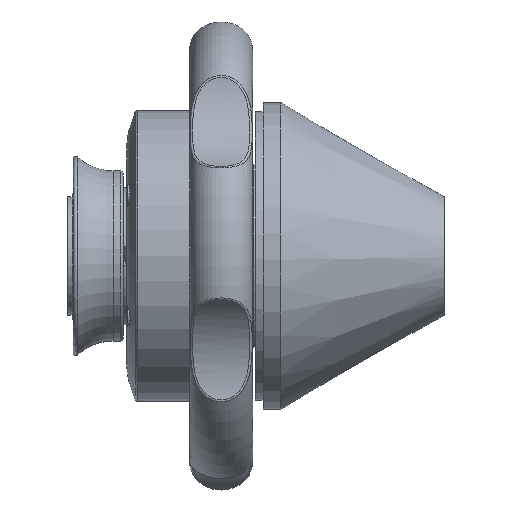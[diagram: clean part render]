
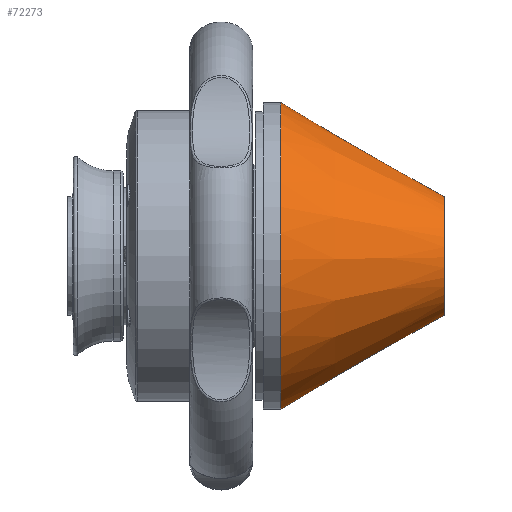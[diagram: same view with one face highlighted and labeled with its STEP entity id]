
A CAD part, top view. The second image highlights one B-rep face of the part: STEP entity #72273.
In plain terms, the highlighted conical face has half-angle 30 degrees and reference radius 58.5 mm.
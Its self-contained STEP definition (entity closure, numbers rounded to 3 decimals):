
#81 = AXIS2_PLACEMENT_3D ( 'NONE', #62721, #37925, #70104 ) ;
#1602 = FACE_OUTER_BOUND ( 'NONE', #70744, .T. ) ;
#9614 = EDGE_LOOP ( 'NONE', ( #88235 ) ) ;
#13554 = CIRCLE ( 'NONE', #81, 22.5 ) ;
#15328 = CARTESIAN_POINT ( 'NONE',  ( 35.868, -21.421, 54.437 ) ) ;
#16529 = CIRCLE ( 'NONE', #31795, 58.5 ) ;
#24232 = ORIENTED_EDGE ( 'NONE', *, *, #71816, .T. ) ;
#29445 = DIRECTION ( 'NONE',  ( 0., -0.366, 0.931 ) ) ;
#31795 = AXIS2_PLACEMENT_3D ( 'NONE', #102932, #62697, #29445 ) ;
#35974 = EDGE_CURVE ( 'NONE', #68167, #68167, #13554, .T. ) ;
#37925 = DIRECTION ( 'NONE',  ( -1., 0., 0. ) ) ;
#40388 = CONICAL_SURFACE ( 'NONE', #99463, 58.5, 0.524 ) ;
#48613 = VERTEX_POINT ( 'NONE', #15328 ) ;
#62697 = DIRECTION ( 'NONE',  ( 1., 0., 0. ) ) ;
#62721 = CARTESIAN_POINT ( 'NONE',  ( 98.222, 0., 0. ) ) ;
#62815 = DIRECTION ( 'NONE',  ( 0., -0.366, 0.931 ) ) ;
#68167 = VERTEX_POINT ( 'NONE', #93084 ) ;
#70104 = DIRECTION ( 'NONE',  ( 0., -0.366, 0.931 ) ) ;
#70744 = EDGE_LOOP ( 'NONE', ( #24232 ) ) ;
#71816 = EDGE_CURVE ( 'NONE', #48613, #48613, #16529, .T. ) ;
#72273 = ADVANCED_FACE ( 'NONE', ( #1602, #99385 ), #40388, .T. ) ;
#74995 = DIRECTION ( 'NONE',  ( -1., 0., 0. ) ) ;
#82394 = CARTESIAN_POINT ( 'NONE',  ( 35.868, 0., 0. ) ) ;
#88235 = ORIENTED_EDGE ( 'NONE', *, *, #35974, .T. ) ;
#93084 = CARTESIAN_POINT ( 'NONE',  ( 98.222, -8.239, 20.937 ) ) ;
#99385 = FACE_BOUND ( 'NONE', #9614, .T. ) ;
#99463 = AXIS2_PLACEMENT_3D ( 'NONE', #82394, #74995, #62815 ) ;
#102932 = CARTESIAN_POINT ( 'NONE',  ( 35.868, 0., 0. ) ) ;
